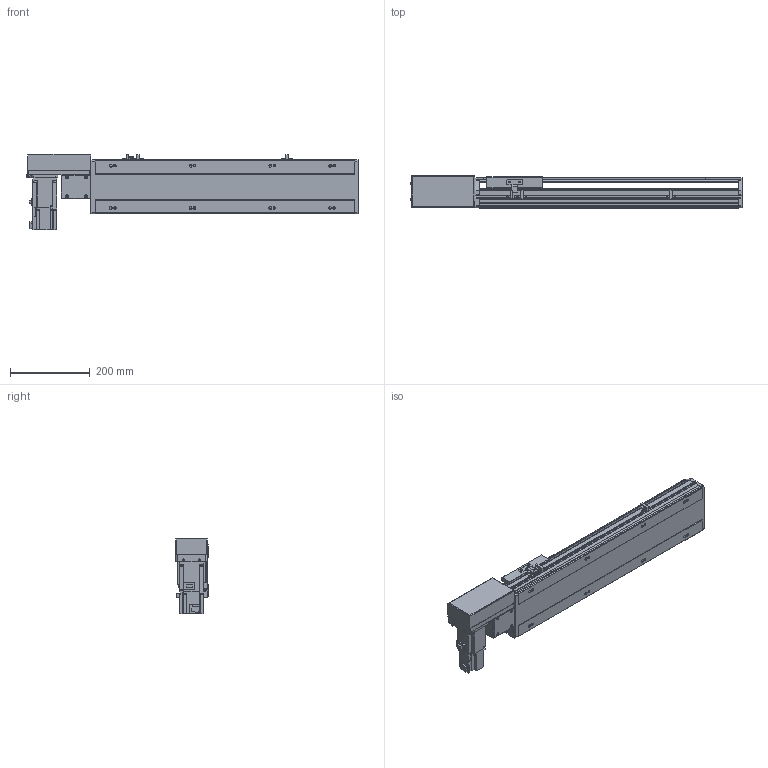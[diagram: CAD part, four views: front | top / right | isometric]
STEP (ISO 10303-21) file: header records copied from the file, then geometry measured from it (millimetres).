
FILE_DESCRIPTION( ( 'STEP AP214' ), '1' );
FILE_NAME( 'x:/temp/worker_27/temp/exporttempdir_6708_362_U1rQz/format_0/PBS140-P40-S400-R-T40-C1-N(0).stp', '2022-06-06T01:26:50', ( 'License CC BY-ND 4.0' ), ( 'CADENAS' ), ' ', 'PARTsolutions', ' ' );
FILE_SCHEMA( ( 'AUTOMOTIVE_DESIGN { 1 0 10303 214 1 1 1 1 }' ) );
Length unit declared in the file: millimetre
Products named in the file (7): PBS140-P40-S400-R-T40-C1-N(0); _PBS140-S400()_body; _PBS140T-R_motors; _T40-p1; _PBS140_sliser; _PBS140_plant; _PBS140_sensor
Assembly tree (8 placements, depth 2):
  PBS140-P40-S400-R-T40-C1-N(0)
    _PBS140-S400()_body
    _PBS140T-R_motors
    _T40-p1
    _PBS140_sliser
    _PBS140_plant
    _PBS140_sensor  x3
Bounding box: 833 x 80.5 x 189.7 mm (x, y, z)
Volume: 3998367.2 mm3; surface area: 723362.1 mm2
Topology: 8 solids, 8 shells, 1011 faces, 2676 edges, 1749 vertices
Faces by surface type: plane 668, cylinder 299, cone 34, sphere 8, torus 2
Full cylindrical faces by diameter (mm): 3.242 x4, 4 x2, 4.134 x4, 4.4 x8, 4.5 x2, 4.8 x4, 4.917 x16, 5.5 x7, 6 x2, 7 x10, 7.5 x8, 8 x12, 8.5 x4, 10.5 x8, 14 x1, 30 x2, 50 x2
Entity records: 36721 total; most frequent: CARTESIAN_POINT 5579, DIRECTION 4917, ORIENTED_EDGE 4672, EDGE_CURVE 2336, AXIS2_PLACEMENT_3D 1687, VERTEX_POINT 1605, LINE 1543, VECTOR 1543
